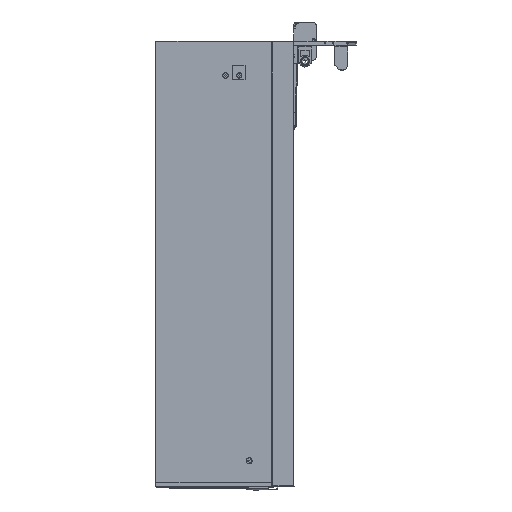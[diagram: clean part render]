
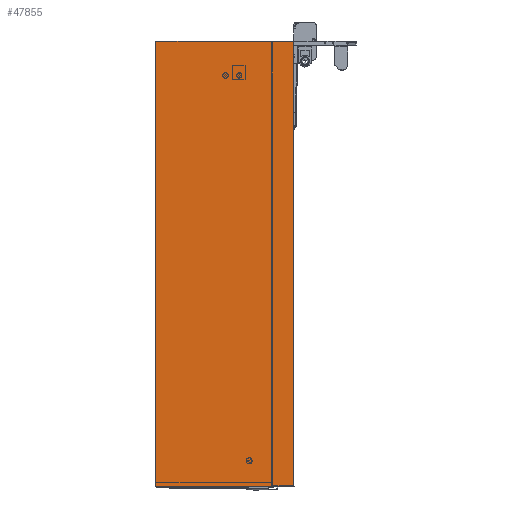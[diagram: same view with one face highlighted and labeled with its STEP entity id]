
A CAD part, left-side view. The second image highlights one B-rep face of the part: STEP entity #47855.
In plain terms, the highlighted planar face has unit normal (-1, 0, 0).
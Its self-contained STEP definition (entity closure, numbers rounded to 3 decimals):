
#1225 = CARTESIAN_POINT ( 'NONE',  ( 0., 199., 0. ) ) ;
#2557 = ORIENTED_EDGE ( 'NONE', *, *, #41562, .F. ) ;
#3409 = VECTOR ( 'NONE', #7066, 1000. ) ;
#6151 = DIRECTION ( 'NONE',  ( 0., -1., 0. ) ) ;
#6442 = FACE_OUTER_BOUND ( 'NONE', #47124, .T. ) ;
#7066 = DIRECTION ( 'NONE',  ( 0., -1., 0. ) ) ;
#7483 = DIRECTION ( 'NONE',  ( 0., 0., 1. ) ) ;
#7733 = AXIS2_PLACEMENT_3D ( 'NONE', #21650, #56977, #56662 ) ;
#12030 = EDGE_CURVE ( 'NONE', #30943, #42634, #39417, .T. ) ;
#18591 = CARTESIAN_POINT ( 'NONE',  ( 0., 15.2, 0. ) ) ;
#21650 = CARTESIAN_POINT ( 'NONE',  ( 0., 199., -591. ) ) ;
#21693 = LINE ( 'NONE', #1225, #50433 ) ;
#22452 = VERTEX_POINT ( 'NONE', #23971 ) ;
#22969 = ORIENTED_EDGE ( 'NONE', *, *, #46661, .T. ) ;
#23971 = CARTESIAN_POINT ( 'NONE',  ( 0., 197.9, -591. ) ) ;
#26995 = CARTESIAN_POINT ( 'NONE',  ( 0., 197.9, -591. ) ) ;
#30943 = VERTEX_POINT ( 'NONE', #51856 ) ;
#31567 = ORIENTED_EDGE ( 'NONE', *, *, #42205, .F. ) ;
#39417 = LINE ( 'NONE', #45048, #46046 ) ;
#41562 = EDGE_CURVE ( 'NONE', #22452, #50356, #57060, .T. ) ;
#41783 = LINE ( 'NONE', #56653, #3409 ) ;
#42205 = EDGE_CURVE ( 'NONE', #50356, #42634, #21693, .T. ) ;
#42634 = VERTEX_POINT ( 'NONE', #18591 ) ;
#45048 = CARTESIAN_POINT ( 'NONE',  ( 0., 15.2, -591. ) ) ;
#45943 = ORIENTED_EDGE ( 'NONE', *, *, #12030, .T. ) ;
#46046 = VECTOR ( 'NONE', #59586, 1000. ) ;
#46661 = EDGE_CURVE ( 'NONE', #22452, #30943, #41783, .T. ) ;
#47124 = EDGE_LOOP ( 'NONE', ( #31567, #2557, #22969, #45943 ) ) ;
#47855 = ADVANCED_FACE ( 'NONE', ( #6442 ), #60389, .T. ) ;
#50356 = VERTEX_POINT ( 'NONE', #52721 ) ;
#50433 = VECTOR ( 'NONE', #6151, 1000. ) ;
#51579 = VECTOR ( 'NONE', #7483, 1000. ) ;
#51856 = CARTESIAN_POINT ( 'NONE',  ( 0., 15.2, -591. ) ) ;
#52721 = CARTESIAN_POINT ( 'NONE',  ( 0., 197.9, 0. ) ) ;
#56653 = CARTESIAN_POINT ( 'NONE',  ( 0., 199., -591. ) ) ;
#56662 = DIRECTION ( 'NONE',  ( 0., 0., 1. ) ) ;
#56977 = DIRECTION ( 'NONE',  ( -1., 0., 0. ) ) ;
#57060 = LINE ( 'NONE', #26995, #51579 ) ;
#59586 = DIRECTION ( 'NONE',  ( 0., 0., 1. ) ) ;
#60389 = PLANE ( 'NONE',  #7733 ) ;
